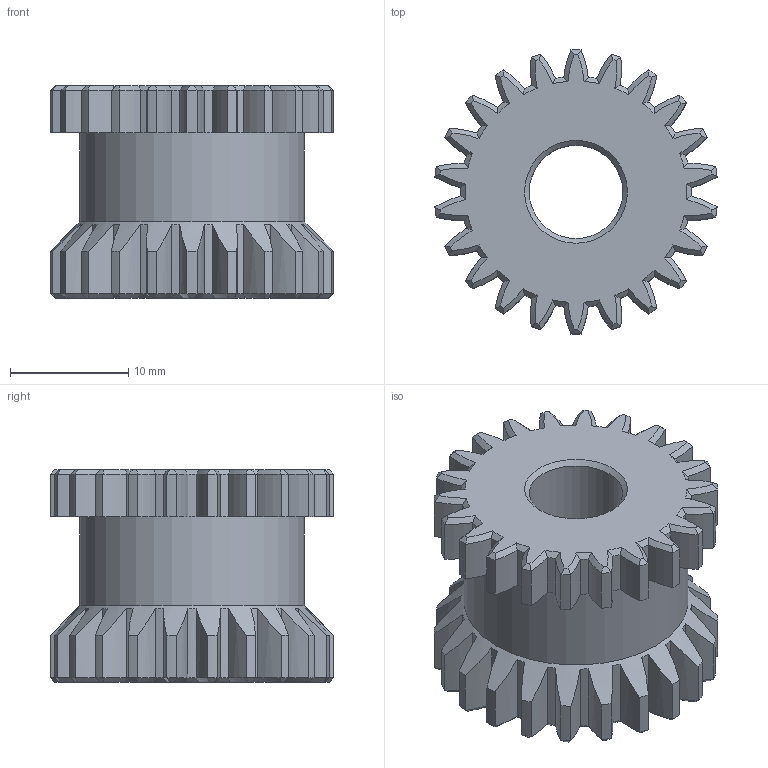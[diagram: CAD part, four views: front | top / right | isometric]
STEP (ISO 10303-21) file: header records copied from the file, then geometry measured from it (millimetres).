
FILE_DESCRIPTION(/* description */ (''),/* implementation_level */ '2;1');
FILE_NAME(/* name */ '\\192.168.3.8\kumagai\Develop\CAD\NakataOmni\DriveUnitR3\SunGear_conn.stp',/* time_stamp */ '2024-05-21T08:45:18+09:00',/* author */ ('kumagai'),/* organization */ (''),/* preprocessor_version */ 'ST-DEVELOPER v19',/* originating_system */ 'Autodesk Inventor 2023',/* authorisation */ '');
FILE_SCHEMA (('AUTOMOTIVE_DESIGN { 1 0 10303 214 3 1 1 }'));
Length unit declared in the file: millimetre
Products named in the file (1): 平歯車1
Bounding box: 23.86 x 24 x 18 mm (x, y, z)
Volume: 5079.2 mm3; surface area: 2964.5 mm2
Topology: 1 solids, 1 shells, 360 faces, 894 edges, 537 vertices
Faces by surface type: cone 179, cylinder 178, plane 3
Full cylindrical faces by diameter (mm): 7.9 x1, 19 x1
Entity records: 11070 total; most frequent: CARTESIAN_POINT 2540, DIRECTION 1889, ORIENTED_EDGE 1788, EDGE_CURVE 894, AXIS2_PLACEMENT_3D 854, VERTEX_POINT 537, CIRCLE 493, EDGE_LOOP 363
